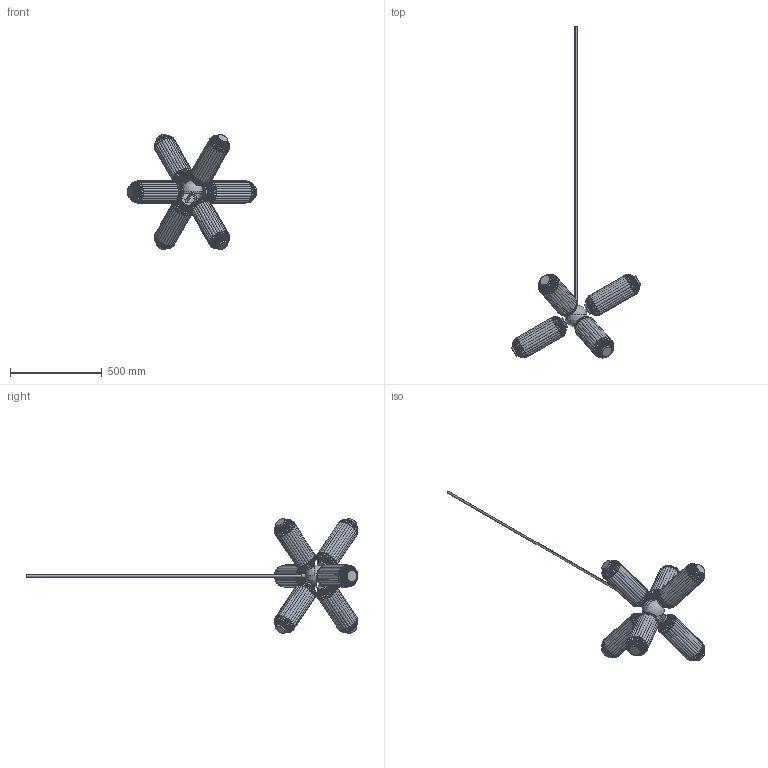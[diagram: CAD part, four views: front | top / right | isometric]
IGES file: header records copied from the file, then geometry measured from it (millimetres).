
Start section: SolidWorks IGES file using analytic representation for surfaces
Global section: file name: C:\Users\Agus\Downloads\ELMA+_C1312_6.IGS; native system: SolidWorks 2018; preprocessor: SolidWorks 2018; author: Agus; date: 240124.161322; units: millimetre
Bounding box: 705.49 x 1806.48 x 624.68 mm (x, y, z)
Surface area: 2008163.9 mm2 (no closed solid volume)
Topology: 0 solids, 0 shells, 1214 faces, 18548 edges, 18547 vertices
Faces by surface type: bspline 992, revolution 222
